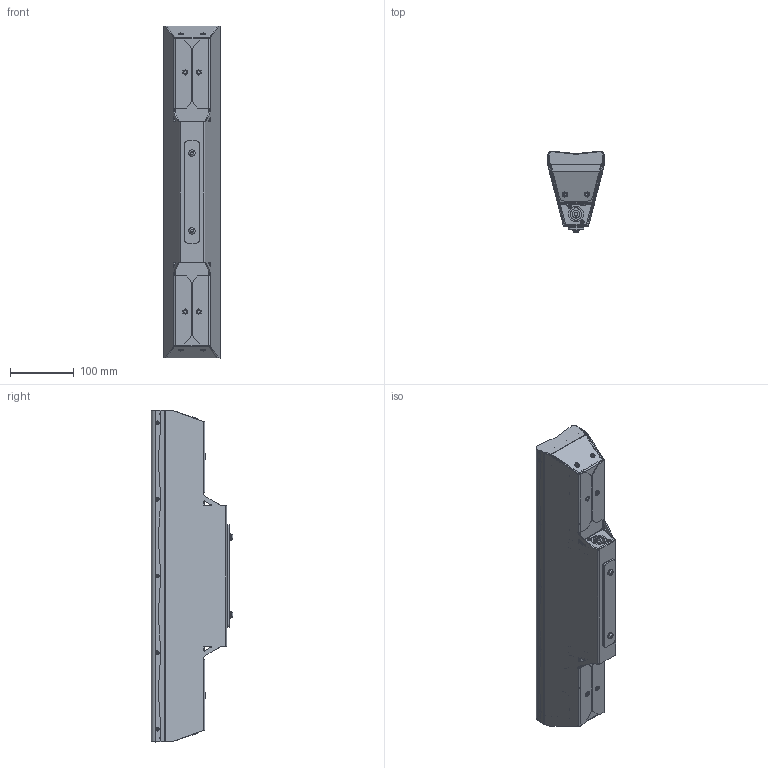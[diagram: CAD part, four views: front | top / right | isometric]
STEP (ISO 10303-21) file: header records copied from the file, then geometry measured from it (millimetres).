
FILE_DESCRIPTION(/* description */ (''),/* implementation_level */ '2;1');
FILE_NAME(/* name */ 'Python-KP52 I',/* time_stamp */ '2026-02-10T15:41:35+01:00',/* author */ (''),/* organization */ (''),/* preprocessor_version */ 'ST-DEVELOPER v19.2',/* originating_system */ 'Rhino 8.24',/* authorisation */ '');
FILE_SCHEMA (('CONFIG_CONTROL_DESIGN'));
Length unit declared in the file: millimetre
Products named in the file (20): Document; GSR0050101 01; M5X10TBBIN; MCP045G02GRZ_A; VTM03X06STIN0; VTA2.9X13STIN0; MCA045B01GRZ_A; BoccolaM5Chiusa; MCP037C03GRZA; InsertoFilettato Esagonale M4x15; MCP037G01GRZD; MCP037C02GRZA; MCP045C01GRZ_A; MCP037T01GRZC; MCP045B01GRZ_A; KWIRE449; BRD150000A; MCA037V01GRZ_C; MCP037V01GRZ_C; MCP037G03GRZ_D
Bounding box: 88.5 x 127.42 x 519.74 mm (x, y, z)
Volume: 425455.4 mm3; surface area: 622832.7 mm2
Topology: 71 solids, 71 shells, 3267 faces, 8369 edges, 5374 vertices
Faces by surface type: plane 2042, cylinder 953, bspline 272
Entity records: 42932 total; most frequent: CARTESIAN_POINT 14312, ORIENTED_EDGE 6840, EDGE_CURVE 3420, DIRECTION 2770, B_SPLINE_CURVE_WITH_KNOTS 2576, VERTEX_POINT 2201, AXIS2_PLACEMENT_3D 1973, EDGE_LOOP 1503
